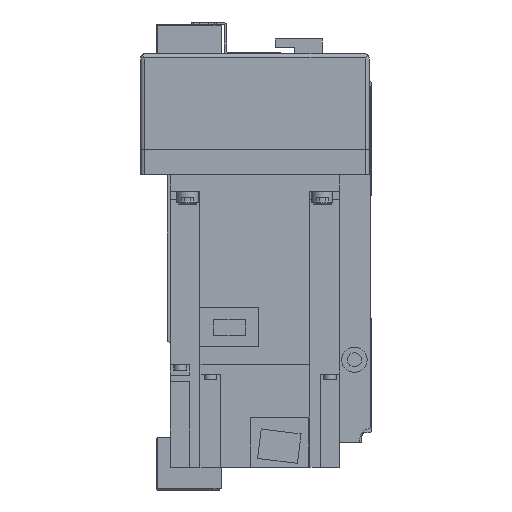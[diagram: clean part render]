
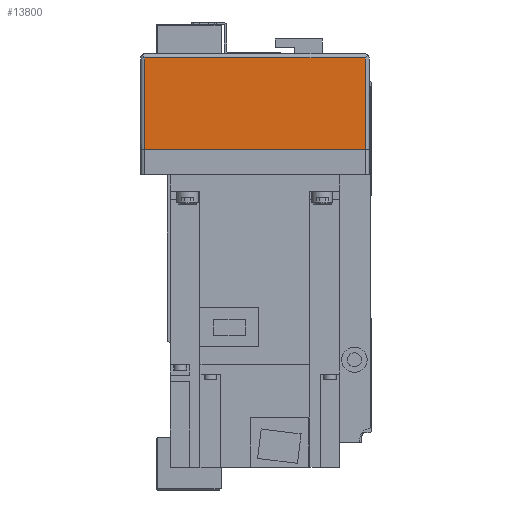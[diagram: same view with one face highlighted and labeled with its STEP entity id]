
A CAD part, left-side view. The second image highlights one B-rep face of the part: STEP entity #13800.
In plain terms, the highlighted planar face has unit normal (-1, 0, 0).
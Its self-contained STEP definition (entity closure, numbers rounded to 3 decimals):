
#2488=ORIENTED_EDGE('',*,*,#5734,.T.);
#2489=ORIENTED_EDGE('',*,*,#5662,.T.);
#2490=ORIENTED_EDGE('',*,*,#5735,.F.);
#2491=ORIENTED_EDGE('',*,*,#5674,.F.);
#5662=EDGE_CURVE('',#7434,#7437,#8884,.T.);
#5674=EDGE_CURVE('',#7444,#7446,#8889,.T.);
#5734=EDGE_CURVE('',#7444,#7434,#8931,.T.);
#5735=EDGE_CURVE('',#7446,#7437,#8932,.T.);
#7434=VERTEX_POINT('',#21569);
#7437=VERTEX_POINT('',#21575);
#7444=VERTEX_POINT('',#21598);
#7446=VERTEX_POINT('',#21601);
#8884=LINE('',#21576,#10197);
#8889=LINE('',#21600,#10202);
#8931=LINE('',#21724,#10244);
#8932=LINE('',#21725,#10245);
#10197=VECTOR('',#17233,1000.);
#10202=VECTOR('',#17260,1000.);
#10244=VECTOR('',#17380,1000.);
#10245=VECTOR('',#17381,1000.);
#11353=EDGE_LOOP('',(#2488,#2489,#2490,#2491));
#12368=FACE_BOUND('',#11353,.T.);
#13215=PLANE('',#14827);
#13800=ADVANCED_FACE('',(#12368),#13215,.T.);
#14827=AXIS2_PLACEMENT_3D('',#21723,#17378,#17379);
#17233=DIRECTION('',(0.,0.,1.));
#17260=DIRECTION('',(0.,0.,1.));
#17378=DIRECTION('',(-1.,0.,0.));
#17379=DIRECTION('',(0.,0.,1.));
#17380=DIRECTION('',(0.,-1.,0.));
#17381=DIRECTION('',(0.,-1.,0.));
#21569=CARTESIAN_POINT('',(-230.,-52.,-55.));
#21575=CARTESIAN_POINT('',(-230.,-52.,-12.));
#21576=CARTESIAN_POINT('',(-230.,-52.,-57.));
#21598=CARTESIAN_POINT('',(-230.,52.,-55.));
#21600=CARTESIAN_POINT('',(-230.,52.,-57.));
#21601=CARTESIAN_POINT('',(-230.,52.,-12.));
#21723=CARTESIAN_POINT('',(-230.,52.,-57.));
#21724=CARTESIAN_POINT('',(-230.,54.,-55.));
#21725=CARTESIAN_POINT('',(-230.,52.,-12.));
